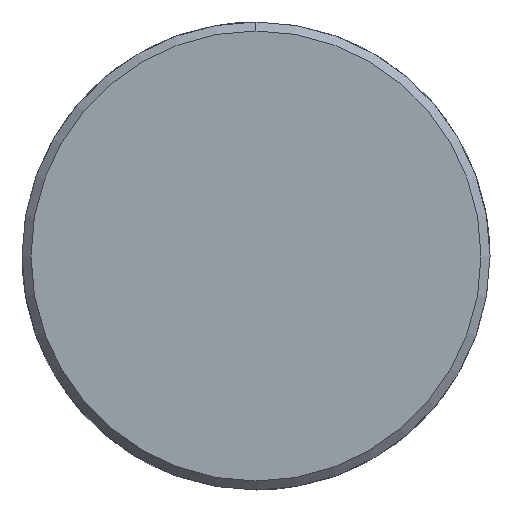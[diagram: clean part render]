
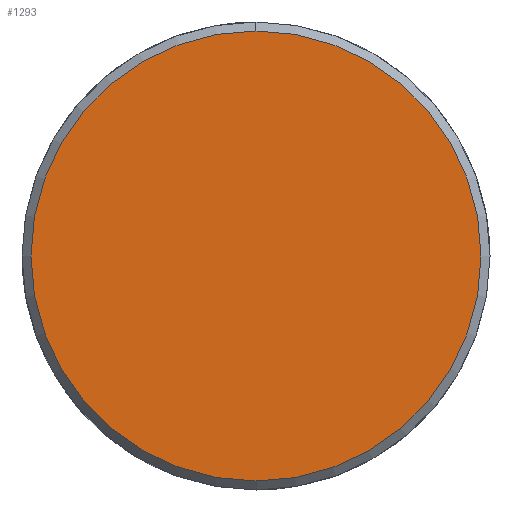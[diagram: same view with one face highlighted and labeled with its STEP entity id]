
A CAD part, left-side view. The second image highlights one B-rep face of the part: STEP entity #1293.
In plain terms, the highlighted planar face has unit normal (-1, 0, 0).
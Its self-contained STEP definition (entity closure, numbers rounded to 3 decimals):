
#1225=CARTESIAN_POINT('Vertex',(-8.,0.,-25.)) ;
#1228=CARTESIAN_POINT('Axis2P3D Location',(-8.,0.,0.)) ;
#1232=CARTESIAN_POINT('Vertex',(-8.,25.,0.)) ;
#1235=CARTESIAN_POINT('Axis2P3D Location',(-8.,0.,0.)) ;
#1239=CARTESIAN_POINT('Vertex',(-8.,0.,25.)) ;
#1261=CARTESIAN_POINT('Axis2P3D Location',(-8.,0.,0.)) ;
#1265=CARTESIAN_POINT('Vertex',(-8.,-25.,0.)) ;
#1268=CARTESIAN_POINT('Axis2P3D Location',(-8.,0.,0.)) ;
#1282=CARTESIAN_POINT('Axis2P3D Location',(-8.,0.,0.)) ;
#1229=DIRECTION('Axis2P3D Direction',(1.,0.,-0.)) ;
#1236=DIRECTION('Axis2P3D Direction',(1.,0.,-0.)) ;
#1262=DIRECTION('Axis2P3D Direction',(1.,0.,-0.)) ;
#1269=DIRECTION('Axis2P3D Direction',(1.,0.,-0.)) ;
#1283=DIRECTION('Axis2P3D Direction',(1.,0.,-0.)) ;
#1284=DIRECTION('Axis2P3D XDirection',(-0.,0.,-1.)) ;
#1230=AXIS2_PLACEMENT_3D('Circle Axis2P3D',#1228,#1229,$) ;
#1237=AXIS2_PLACEMENT_3D('Circle Axis2P3D',#1235,#1236,$) ;
#1263=AXIS2_PLACEMENT_3D('Circle Axis2P3D',#1261,#1262,$) ;
#1270=AXIS2_PLACEMENT_3D('Circle Axis2P3D',#1268,#1269,$) ;
#1285=AXIS2_PLACEMENT_3D('Plane Axis2P3D',#1282,#1283,#1284) ;
#1288=ORIENTED_EDGE('',*,*,#1234,.F.) ;
#1289=ORIENTED_EDGE('',*,*,#1272,.F.) ;
#1290=ORIENTED_EDGE('',*,*,#1267,.F.) ;
#1291=ORIENTED_EDGE('',*,*,#1241,.F.) ;
#1293=ADVANCED_FACE('351-40X76X180',(#1292),#1286,.F.) ;
#1231=CIRCLE('generated circle',#1230,25.) ;
#1238=CIRCLE('generated circle',#1237,25.) ;
#1264=CIRCLE('generated circle',#1263,25.) ;
#1271=CIRCLE('generated circle',#1270,25.) ;
#1234=EDGE_CURVE('',#1226,#1233,#1231,.T.) ;
#1241=EDGE_CURVE('',#1233,#1240,#1238,.T.) ;
#1267=EDGE_CURVE('',#1240,#1266,#1264,.T.) ;
#1272=EDGE_CURVE('',#1266,#1226,#1271,.T.) ;
#1287=EDGE_LOOP('',(#1288,#1289,#1290,#1291)) ;
#1292=FACE_OUTER_BOUND('',#1287,.T.) ;
#1286=PLANE('Plane',#1285) ;
#1226=VERTEX_POINT('',#1225) ;
#1233=VERTEX_POINT('',#1232) ;
#1240=VERTEX_POINT('',#1239) ;
#1266=VERTEX_POINT('',#1265) ;
